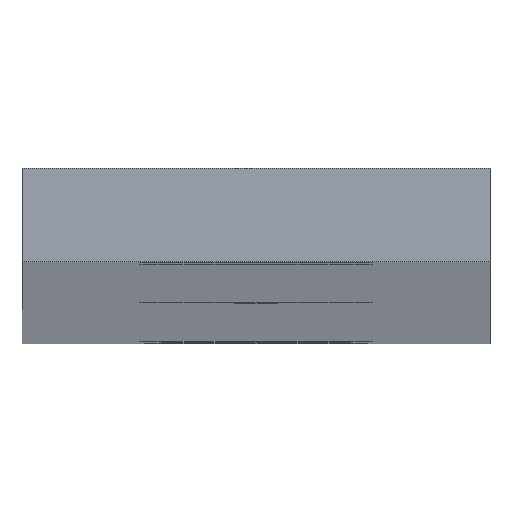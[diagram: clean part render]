
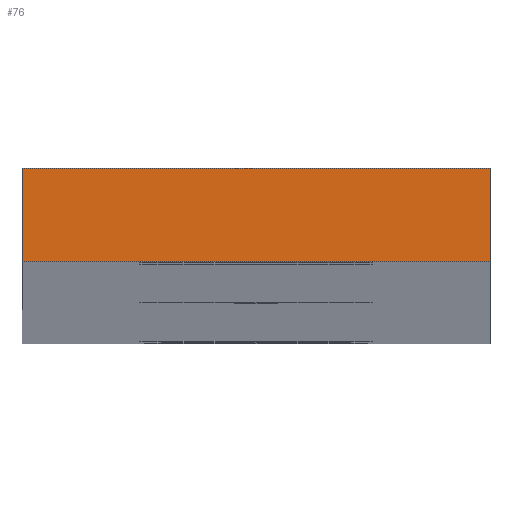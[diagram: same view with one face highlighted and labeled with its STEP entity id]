
A CAD part, top view. The second image highlights one B-rep face of the part: STEP entity #76.
In plain terms, the highlighted planar face has unit normal (0, 0, 1).
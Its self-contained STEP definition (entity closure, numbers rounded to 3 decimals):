
#76 = ADVANCED_FACE( '', ( #89 ), #90, .T. );
#89 = FACE_OUTER_BOUND( '', #126, .T. );
#90 = PLANE( '', #127 );
#126 = EDGE_LOOP( '', ( #168, #169, #170, #171 ) );
#127 = AXIS2_PLACEMENT_3D( '', #172, #173, #174 );
#168 = ORIENTED_EDGE( '', *, *, #240, .T. );
#169 = ORIENTED_EDGE( '', *, *, #242, .T. );
#170 = ORIENTED_EDGE( '', *, *, #243, .T. );
#171 = ORIENTED_EDGE( '', *, *, #244, .T. );
#172 = CARTESIAN_POINT( '', ( -7.937, -1.588, 800.1 ) );
#173 = DIRECTION( '', ( 0., 0., 1. ) );
#174 = DIRECTION( '', ( 1., 0., 0. ) );
#240 = EDGE_CURVE( '', #265, #263, #266, .T. );
#242 = EDGE_CURVE( '', #263, #268, #269, .T. );
#243 = EDGE_CURVE( '', #268, #270, #271, .T. );
#244 = EDGE_CURVE( '', #270, #265, #272, .T. );
#263 = VERTEX_POINT( '', #304 );
#265 = VERTEX_POINT( '', #307 );
#266 = LINE( '', #308, #309 );
#268 = VERTEX_POINT( '', #312 );
#269 = LINE( '', #313, #314 );
#270 = VERTEX_POINT( '', #315 );
#271 = LINE( '', #316, #317 );
#272 = LINE( '', #318, #319 );
#304 = CARTESIAN_POINT( '', ( -7.937, -1.588, 800.1 ) );
#307 = CARTESIAN_POINT( '', ( -7.937, 1.588, 800.1 ) );
#308 = CARTESIAN_POINT( '', ( -7.937, 1.588, 800.1 ) );
#309 = VECTOR( '', #354, 1000. );
#312 = CARTESIAN_POINT( '', ( 7.938, -1.588, 800.1 ) );
#313 = CARTESIAN_POINT( '', ( -7.937, -1.588, 800.1 ) );
#314 = VECTOR( '', #356, 1000. );
#315 = CARTESIAN_POINT( '', ( 7.938, 1.588, 800.1 ) );
#316 = CARTESIAN_POINT( '', ( 7.938, -1.588, 800.1 ) );
#317 = VECTOR( '', #357, 1000. );
#318 = CARTESIAN_POINT( '', ( 7.938, 1.588, 800.1 ) );
#319 = VECTOR( '', #358, 1000. );
#354 = DIRECTION( '', ( 0., -1., 0. ) );
#356 = DIRECTION( '', ( 1., 0., 0. ) );
#357 = DIRECTION( '', ( 0., 1., 0. ) );
#358 = DIRECTION( '', ( -1., 0., 0. ) );
